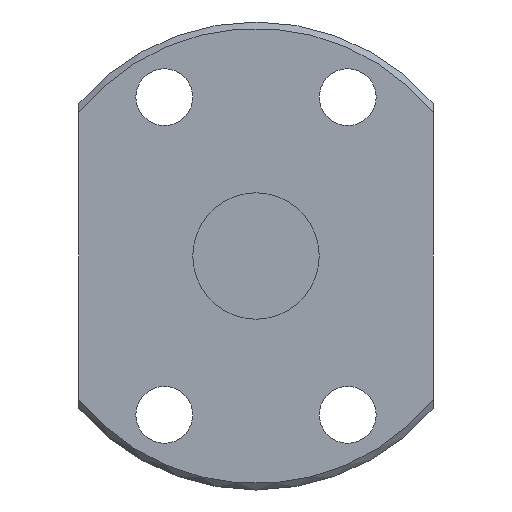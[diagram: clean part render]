
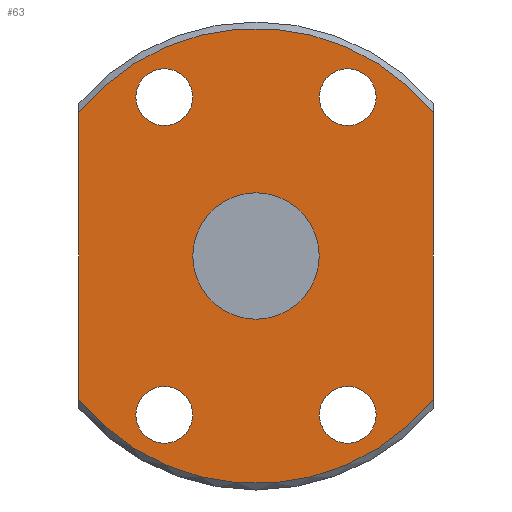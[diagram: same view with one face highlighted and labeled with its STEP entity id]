
A CAD part, front view. The second image highlights one B-rep face of the part: STEP entity #63.
In plain terms, the highlighted planar face has unit normal (0, -1, 0).
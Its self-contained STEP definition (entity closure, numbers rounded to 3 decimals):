
#10 = AXIS2_PLACEMENT_3D ( 'NONE', #230, #341, #136 ) ;
#12 = CARTESIAN_POINT ( 'NONE',  ( -14., -34., 0. ) ) ;
#13 = CARTESIAN_POINT ( 'NONE',  ( 7.25, -34., -14.807 ) ) ;
#15 = DIRECTION ( 'NONE',  ( 0., 0., -1. ) ) ;
#20 = VERTEX_POINT ( 'NONE', #447 ) ;
#30 = AXIS2_PLACEMENT_3D ( 'NONE', #140, #243, #489 ) ;
#56 = AXIS2_PLACEMENT_3D ( 'NONE', #459, #259, #112 ) ;
#61 = CARTESIAN_POINT ( 'NONE',  ( -7.25, -34., -14.807 ) ) ;
#63 = ADVANCED_FACE ( 'NONE', ( #96, #141, #336, #100, #610 ), #162, .T. ) ;
#67 = AXIS2_PLACEMENT_3D ( 'NONE', #309, #407, #15 ) ;
#69 = EDGE_CURVE ( 'NONE', #624, #324, #346, .T. ) ;
#71 = ORIENTED_EDGE ( 'NONE', *, *, #537, .F. ) ;
#87 = AXIS2_PLACEMENT_3D ( 'NONE', #168, #248, #453 ) ;
#96 = FACE_OUTER_BOUND ( 'NONE', #288, .T. ) ;
#100 = FACE_BOUND ( 'NONE', #147, .T. ) ;
#101 = DIRECTION ( 'NONE',  ( 0., -1., 0. ) ) ;
#106 = VERTEX_POINT ( 'NONE', #61 ) ;
#107 = DIRECTION ( 'NONE',  ( 0., 0., -1. ) ) ;
#112 = DIRECTION ( 'NONE',  ( 0., 0., -1. ) ) ;
#135 = AXIS2_PLACEMENT_3D ( 'NONE', #386, #101, #534 ) ;
#136 = DIRECTION ( 'NONE',  ( 0., 0., -1. ) ) ;
#140 = CARTESIAN_POINT ( 'NONE',  ( 7.25, -34., 12.557 ) ) ;
#141 = FACE_BOUND ( 'NONE', #167, .T. ) ;
#147 = EDGE_LOOP ( 'NONE', ( #532 ) ) ;
#158 = VERTEX_POINT ( 'NONE', #203 ) ;
#161 = ORIENTED_EDGE ( 'NONE', *, *, #514, .F. ) ;
#162 = PLANE ( 'NONE',  #56 ) ;
#163 = VECTOR ( 'NONE', #482, 1000. ) ;
#167 = EDGE_LOOP ( 'NONE', ( #260 ) ) ;
#168 = CARTESIAN_POINT ( 'NONE',  ( 0., -34., 0. ) ) ;
#193 = CIRCLE ( 'NONE', #30, 2.25 ) ;
#203 = CARTESIAN_POINT ( 'NONE',  ( -7.25, -34., 10.308 ) ) ;
#230 = CARTESIAN_POINT ( 'NONE',  ( -7.25, -34., -12.557 ) ) ;
#243 = DIRECTION ( 'NONE',  ( 0., -1., 0. ) ) ;
#244 = EDGE_CURVE ( 'NONE', #347, #347, #262, .T. ) ;
#248 = DIRECTION ( 'NONE',  ( 0., -1., 0. ) ) ;
#249 = EDGE_LOOP ( 'NONE', ( #161 ) ) ;
#254 = CIRCLE ( 'NONE', #10, 2.25 ) ;
#259 = DIRECTION ( 'NONE',  ( 0., -1., 0. ) ) ;
#260 = ORIENTED_EDGE ( 'NONE', *, *, #244, .F. ) ;
#262 = CIRCLE ( 'NONE', #495, 2.25 ) ;
#264 = CARTESIAN_POINT ( 'NONE',  ( 7.25, -34., -12.557 ) ) ;
#282 = CARTESIAN_POINT ( 'NONE',  ( 14., -34., -11.314 ) ) ;
#288 = EDGE_LOOP ( 'NONE', ( #597, #438, #71, #488 ) ) ;
#309 = CARTESIAN_POINT ( 'NONE',  ( 0., -34., 0. ) ) ;
#321 = CARTESIAN_POINT ( 'NONE',  ( -14., -34., -11.314 ) ) ;
#324 = VERTEX_POINT ( 'NONE', #321 ) ;
#336 = FACE_BOUND ( 'NONE', #463, .T. ) ;
#341 = DIRECTION ( 'NONE',  ( 0., -1., 0. ) ) ;
#346 = LINE ( 'NONE', #12, #409 ) ;
#347 = VERTEX_POINT ( 'NONE', #13 ) ;
#370 = DIRECTION ( 'NONE',  ( 0., 0., -1. ) ) ;
#371 = ORIENTED_EDGE ( 'NONE', *, *, #382, .F. ) ;
#382 = EDGE_CURVE ( 'NONE', #106, #106, #254, .T. ) ;
#386 = CARTESIAN_POINT ( 'NONE',  ( -7.25, -34., 12.557 ) ) ;
#407 = DIRECTION ( 'NONE',  ( 0., -1., 0. ) ) ;
#409 = VECTOR ( 'NONE', #107, 1000. ) ;
#432 = CARTESIAN_POINT ( 'NONE',  ( 14., -34., 0. ) ) ;
#438 = ORIENTED_EDGE ( 'NONE', *, *, #589, .T. ) ;
#447 = CARTESIAN_POINT ( 'NONE',  ( 7.25, -34., 10.308 ) ) ;
#449 = EDGE_CURVE ( 'NONE', #158, #158, #475, .T. ) ;
#453 = DIRECTION ( 'NONE',  ( 0., 0., -1. ) ) ;
#459 = CARTESIAN_POINT ( 'NONE',  ( 0., -34., 0. ) ) ;
#463 = EDGE_LOOP ( 'NONE', ( #371 ) ) ;
#475 = CIRCLE ( 'NONE', #135, 2.25 ) ;
#482 = DIRECTION ( 'NONE',  ( 0., 0., -1. ) ) ;
#485 = LINE ( 'NONE', #432, #163 ) ;
#488 = ORIENTED_EDGE ( 'NONE', *, *, #629, .T. ) ;
#489 = DIRECTION ( 'NONE',  ( 0., 0., -1. ) ) ;
#495 = AXIS2_PLACEMENT_3D ( 'NONE', #264, #575, #370 ) ;
#498 = CARTESIAN_POINT ( 'NONE',  ( 14., -34., 11.314 ) ) ;
#514 = EDGE_CURVE ( 'NONE', #20, #20, #193, .T. ) ;
#523 = VERTEX_POINT ( 'NONE', #282 ) ;
#532 = ORIENTED_EDGE ( 'NONE', *, *, #449, .F. ) ;
#534 = DIRECTION ( 'NONE',  ( 0., 0., -1. ) ) ;
#537 = EDGE_CURVE ( 'NONE', #615, #523, #485, .T. ) ;
#559 = CIRCLE ( 'NONE', #87, 18. ) ;
#575 = DIRECTION ( 'NONE',  ( 0., -1., 0. ) ) ;
#589 = EDGE_CURVE ( 'NONE', #324, #523, #620, .T. ) ;
#597 = ORIENTED_EDGE ( 'NONE', *, *, #69, .T. ) ;
#607 = CARTESIAN_POINT ( 'NONE',  ( -14., -34., 11.314 ) ) ;
#610 = FACE_BOUND ( 'NONE', #249, .T. ) ;
#615 = VERTEX_POINT ( 'NONE', #498 ) ;
#620 = CIRCLE ( 'NONE', #67, 18. ) ;
#624 = VERTEX_POINT ( 'NONE', #607 ) ;
#629 = EDGE_CURVE ( 'NONE', #615, #624, #559, .T. ) ;
